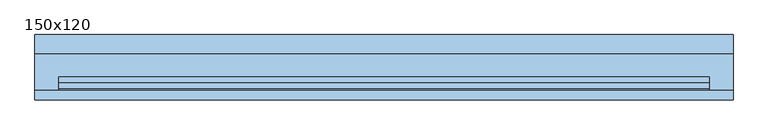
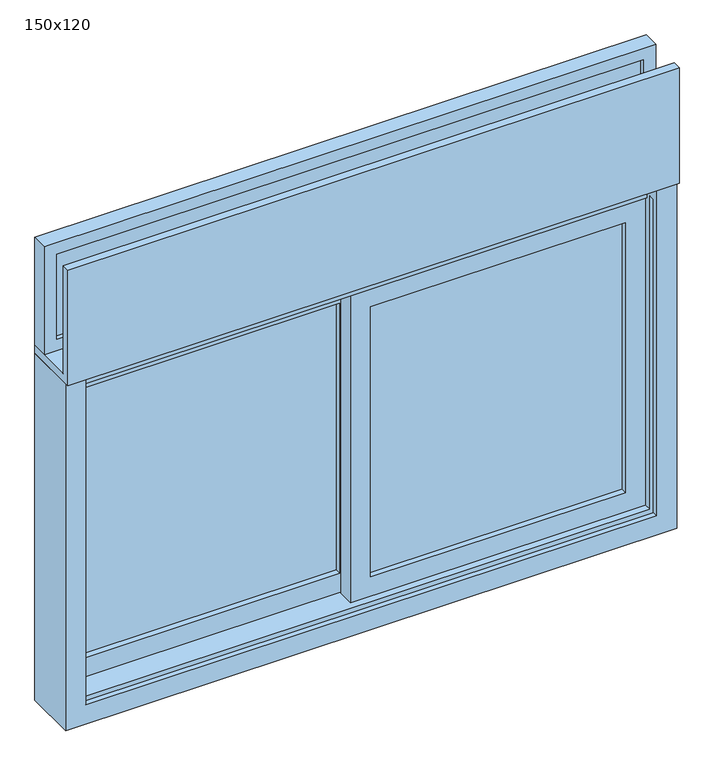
"""IFC4 building model written with IfcOpenShell, lengths in millimetres: window geometry, Veneziana - 2 Painéis : 150x120."""

from ifc_helpers import new_model, si_unit, frame, origin, place, context, project, spatial, polyline, outline, extrude, faceted_brep, source, transform, mapped, element, save


def window_150x120_581fea6a(model_context):
    return source(origin(), model_context, "Body", "SolidModel", [
        faceted_brep([(-700.0, -60.0, 1570.0), (-700.0, -60.0, 1550.0), (-700.0, -20.0, 1550.0), (-700.0, -20.0, 1570.0), (-700.0, -50.0, 1570.0), (700.0, -50.0, 1570.0), (700.0, -20.0, 1570.0), (700.0, -20.0, 1550.0), (700.0, -60.0, 1550.0), (700.0, -60.0, 1570.0), (-750.0, -50.0, 1570.0), (-750.0, 70.0, 1570.0), (-750.0, 70.0, 1550.0), (-750.0, -70.0, 1550.0), (-750.0, -70.0, 1850.0), (-750.0, -50.0, 1850.0), (750.0, -50.0, 1570.0), (750.0, -50.0, 1850.0), (750.0, -70.0, 1850.0), (750.0, -70.0, 1550.0), (750.0, 70.0, 1550.0), (750.0, 70.0, 1570.0)], [[[0, 1, 2, 3, 4]], [[5, 6, 7, 8, 9]], [[9, 8, 1, 0]], [[2, 7, 6, 3]], [[10, 11, 12, 13, 14, 15]], [[16, 17, 18, 19, 20, 21]], [[15, 17, 16, 5, 4, 10]], [[14, 18, 17, 15]], [[13, 19, 18, 14]], [[12, 20, 19, 13], [1, 8, 7, 2]], [[11, 21, 20, 12]], [[10, 4, 3, 6, 5, 16, 21, 11]], [[0, 4, 5, 9]]]),
        extrude(outline(polyline([(-735.0, 70.0), (735.0, 70.0), (735.0, 55.0), (-735.0, 55.0), (-735.0, 70.0)])), frame((0.0, 0.0, 1585.0), z_axis=(0.0, 0.0, 1.0), x_axis=(1.0, 0.0, 0.0)), (0.0, 0.0, 1.0), 250.0),
        faceted_brep([(720.0, 40.0, 1820.0), (720.0, 40.0, 1600.0), (720.0, 30.0, 1600.0), (720.0, 30.0, 1820.0), (735.0, 70.0, 1835.0), (735.0, 70.0, 1585.0), (735.0, 40.0, 1585.0), (735.0, 40.0, 1835.0), (750.0, 30.0, 1850.0), (750.0, 30.0, 1570.0), (750.0, 70.0, 1570.0), (750.0, 70.0, 1850.0), (-720.0, 40.0, 1600.0), (-720.0, 30.0, 1600.0), (-735.0, 70.0, 1585.0), (-735.0, 40.0, 1585.0), (-750.0, 30.0, 1570.0), (-750.0, 70.0, 1570.0), (-720.0, 40.0, 1820.0), (-720.0, 30.0, 1820.0), (-735.0, 70.0, 1835.0), (-735.0, 40.0, 1835.0), (-750.0, 30.0, 1850.0), (-750.0, 70.0, 1850.0)], [[[0, 1, 2, 3]], [[4, 5, 6, 7]], [[8, 9, 10, 11]], [[1, 12, 13, 2]], [[5, 14, 15, 6]], [[9, 16, 17, 10]], [[12, 18, 19, 13]], [[14, 20, 21, 15]], [[16, 22, 23, 17]], [[18, 0, 3, 19]], [[7, 6, 15, 21], [1, 0, 18, 12]], [[20, 4, 7, 21]], [[11, 10, 17, 23], [5, 4, 20, 14]], [[22, 8, 11, 23]], [[9, 8, 22, 16], [3, 2, 13, 19]]]),
        faceted_brep([(700.0, -60.0, 700.0), (700.0, -60.0, 1550.0), (700.0, -20.0, 1550.0), (700.0, -20.0, 1500.0), (700.0, 70.0, 1500.0), (700.0, 70.0, 700.0), (700.0, -33.0, 700.0), (700.0, -33.0, 1512.5), (700.0, -47.0, 1512.5), (700.0, -47.0, 700.0), (-700.0, -47.0, 700.0), (-700.0, -60.0, 700.0), (712.5, -47.0, 1512.5), (712.5, -47.0, 687.5), (-712.5, -47.0, 687.5), (-712.5, -47.0, 1512.5), (-700.0, -47.0, 1512.5), (712.5, -33.0, 1512.5), (-700.0, -33.0, 700.0), (-700.0, -33.0, 1512.5), (-712.5, -33.0, 1512.5), (-712.5, -33.0, 687.5), (712.5, -33.0, 687.5), (-700.0, 70.0, 700.0), (750.0, 70.0, 650.0), (-750.0, 70.0, 650.0), (-750.0, 70.0, 1550.0), (750.0, 70.0, 1550.0), (-700.0, 70.0, 1500.0), (-700.0, -60.0, 1550.0), (-750.0, -60.0, 1550.0), (-750.0, -60.0, 650.0), (750.0, -60.0, 650.0), (750.0, -60.0, 1550.0), (-700.0, -20.0, 1500.0), (-700.0, -20.0, 1550.0)], [[[0, 1, 2, 3, 4, 5, 6, 7, 8, 9]], [[9, 10, 11, 0]], [[8, 12, 13, 14, 15, 16, 10, 9]], [[17, 7, 6, 18, 19, 20, 21, 22]], [[5, 23, 18, 6]], [[24, 25, 26, 27], [4, 28, 23, 5]], [[0, 11, 29, 30, 31, 32, 33, 1]], [[17, 22, 13, 12]], [[22, 21, 14, 13]], [[33, 32, 24, 27]], [[32, 31, 25, 24]], [[10, 16, 19, 18, 23, 28, 34, 35, 29, 11]], [[21, 20, 15, 14]], [[31, 30, 26, 25]], [[34, 3, 2, 35]], [[12, 8, 7, 17]], [[20, 19, 16, 15]], [[4, 3, 34, 28]], [[27, 26, 30, 29, 35, 2, 1, 33]]]),
        extrude(outline(polyline([(0.0, 0.0), (0.0, 10.0), (675.0, 10.0), (675.0, 0.0), (0.0, 0.0)])), frame((0.0, 0.0, 725.0), z_axis=(0.0, 0.0, 1.0), x_axis=(1.0, 0.0, 0.0)), (0.0, 0.0, 1.0), 750.0),
        extrude(outline(polyline([(-675.0, 45.0), (-675.0, 55.0), (0.0, 55.0), (0.0, 45.0), (-675.0, 45.0)])), frame((0.0, 0.0, 725.0), z_axis=(0.0, 0.0, 1.0), x_axis=(1.0, 0.0, 0.0)), (0.0, 0.0, 1.0), 750.0),
        faceted_brep([(650.0, 0.0, 1450.0), (650.0, 0.0, 750.0), (650.0, -15.0, 750.0), (650.0, -15.0, 1450.0), (700.0, -15.0, 700.0), (700.0, -15.0, 1500.0), (-25.0, -15.0, 1500.0), (-25.0, -15.0, 700.0), (25.0, -15.0, 750.0), (25.0, -15.0, 1450.0), (25.0, 0.0, 750.0), (675.0, 0.0, 1475.0), (675.0, 0.0, 725.0), (0.0, 0.0, 725.0), (0.0, 0.0, 1475.0), (25.0, 0.0, 1450.0), (675.0, 10.0, 1475.0), (675.0, 10.0, 725.0), (0.0, 10.0, 725.0), (0.0, 10.0, 1475.0), (650.0, 10.0, 1450.0), (650.0, 10.0, 750.0), (25.0, 10.0, 750.0), (25.0, 10.0, 1450.0), (650.0, 25.0, 1450.0), (650.0, 25.0, 750.0), (25.0, 25.0, 750.0), (700.0, 25.0, 1500.0), (700.0, 25.0, 700.0), (-25.0, 25.0, 700.0), (-25.0, 25.0, 1500.0), (25.0, 25.0, 1450.0)], [[[0, 1, 2, 3]], [[4, 5, 6, 7], [3, 2, 8, 9]], [[1, 10, 8, 2]], [[11, 12, 13, 14], [1, 0, 15, 10]], [[16, 17, 12, 11]], [[17, 18, 13, 12]], [[17, 16, 19, 18], [20, 21, 22, 23]], [[24, 25, 21, 20]], [[25, 26, 22, 21]], [[27, 28, 29, 30], [25, 24, 31, 26]], [[5, 4, 28, 27]], [[4, 7, 29, 28]], [[10, 15, 9, 8]], [[18, 19, 14, 13]], [[26, 31, 23, 22]], [[7, 6, 30, 29]], [[15, 0, 3, 9]], [[19, 16, 11, 14]], [[31, 24, 20, 23]], [[6, 5, 27, 30]]]),
        faceted_brep([(-25.0, 45.0, 1450.0), (-25.0, 45.0, 750.0), (-25.0, 30.0, 750.0), (-25.0, 30.0, 1450.0), (25.0, 30.0, 700.0), (25.0, 30.0, 1500.0), (-700.0, 30.0, 1500.0), (-700.0, 30.0, 700.0), (-650.0, 30.0, 750.0), (-650.0, 30.0, 1450.0), (-650.0, 45.0, 750.0), (0.0, 45.0, 1475.0), (0.0, 45.0, 725.0), (-675.0, 45.0, 725.0), (-675.0, 45.0, 1475.0), (-650.0, 45.0, 1450.0), (0.0, 55.0, 1475.0), (0.0, 55.0, 725.0), (-675.0, 55.0, 725.0), (-675.0, 55.0, 1475.0), (-25.0, 55.0, 1450.0), (-25.0, 55.0, 750.0), (-650.0, 55.0, 750.0), (-650.0, 55.0, 1450.0), (-25.0, 70.0, 1450.0), (-25.0, 70.0, 750.0), (-650.0, 70.0, 750.0), (25.0, 70.0, 1500.0), (25.0, 70.0, 700.0), (-700.0, 70.0, 700.0), (-700.0, 70.0, 1500.0), (-650.0, 70.0, 1450.0)], [[[0, 1, 2, 3]], [[4, 5, 6, 7], [3, 2, 8, 9]], [[1, 10, 8, 2]], [[11, 12, 13, 14], [1, 0, 15, 10]], [[16, 17, 12, 11]], [[17, 18, 13, 12]], [[17, 16, 19, 18], [20, 21, 22, 23]], [[24, 25, 21, 20]], [[25, 26, 22, 21]], [[27, 28, 29, 30], [25, 24, 31, 26]], [[5, 4, 28, 27]], [[4, 7, 29, 28]], [[10, 15, 9, 8]], [[18, 19, 14, 13]], [[26, 31, 23, 22]], [[7, 6, 30, 29]], [[15, 0, 3, 9]], [[19, 16, 11, 14]], [[31, 24, 20, 23]], [[6, 5, 27, 30]]]),
    ])


if __name__ == "__main__":
    model = new_model("IFC4")
    model_context = context("Model", 3, world=origin())
    ifc_project = project(units=[si_unit("LENGTHUNIT", "METRE", prefix="MILLI")], contexts=[model_context])
    site = spatial("IfcSite", under=ifc_project)
    building = spatial("IfcBuilding", under=site)
    placement = place(None, origin())
    window_150x120_shape = window_150x120_581fea6a(model_context)
    element("IfcWindow", 1, ObjectType="Veneziana - 2 Painéis : 150x120", at=placement, inside=building, context=model_context, shape_type="MappedRepresentation", body=[
        mapped(window_150x120_shape, transform((0.0, 0.0, 0.0), x_axis=(1.0, 0.0, 0.0), y_axis=(0.0, 1.0, 0.0), z_axis=(0.0, 0.0, 1.0))),
    ])
    save(model, "model.ifc")
